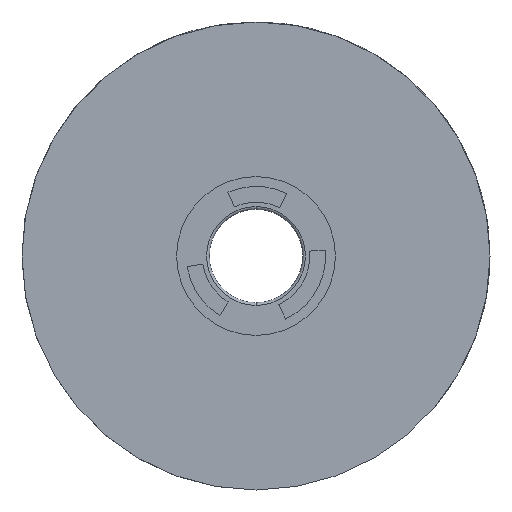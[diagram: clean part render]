
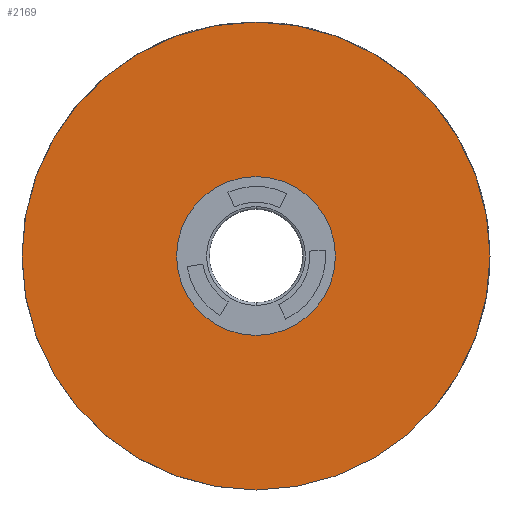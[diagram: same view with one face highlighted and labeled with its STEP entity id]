
A CAD part, front view. The second image highlights one B-rep face of the part: STEP entity #2169.
In plain terms, the highlighted planar face has unit normal (0, -1, 0).
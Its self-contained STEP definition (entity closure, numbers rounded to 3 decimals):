
#48 = DIRECTION ( 'NONE',  ( 0., 0., -1. ) ) ;
#63 = DIRECTION ( 'NONE',  ( 0., -1., 0. ) ) ;
#352 = CARTESIAN_POINT ( 'NONE',  ( 0., -9.45, 42. ) ) ;
#358 = AXIS2_PLACEMENT_3D ( 'NONE', #1644, #464, #2385 ) ;
#407 = ORIENTED_EDGE ( 'NONE', *, *, #2436, .T. ) ;
#409 = CIRCLE ( 'NONE', #2336, 14.25 ) ;
#410 = ORIENTED_EDGE ( 'NONE', *, *, #2871, .F. ) ;
#464 = DIRECTION ( 'NONE',  ( 0., -1., 0. ) ) ;
#566 = VERTEX_POINT ( 'NONE', #2294 ) ;
#659 = CARTESIAN_POINT ( 'NONE',  ( 0., -9.45, 0. ) ) ;
#666 = VERTEX_POINT ( 'NONE', #2099 ) ;
#960 = CARTESIAN_POINT ( 'NONE',  ( 0., -9.45, -42. ) ) ;
#1152 = VERTEX_POINT ( 'NONE', #352 ) ;
#1221 = FACE_OUTER_BOUND ( 'NONE', #1863, .T. ) ;
#1335 = ORIENTED_EDGE ( 'NONE', *, *, #2528, .T. ) ;
#1475 = DIRECTION ( 'NONE',  ( 0., 0., -1. ) ) ;
#1492 = CARTESIAN_POINT ( 'NONE',  ( 0., -9.45, -8.375 ) ) ;
#1513 = AXIS2_PLACEMENT_3D ( 'NONE', #1640, #2568, #1859 ) ;
#1527 = CARTESIAN_POINT ( 'NONE',  ( 0., -9.45, 0. ) ) ;
#1640 = CARTESIAN_POINT ( 'NONE',  ( 0., -9.45, 0. ) ) ;
#1644 = CARTESIAN_POINT ( 'NONE',  ( 0., -9.45, 0. ) ) ;
#1733 = CIRCLE ( 'NONE', #358, 42. ) ;
#1859 = DIRECTION ( 'NONE',  ( 0., 0., -1. ) ) ;
#1863 = EDGE_LOOP ( 'NONE', ( #1335, #407 ) ) ;
#1878 = DIRECTION ( 'NONE',  ( 0., -1., 0. ) ) ;
#1883 = AXIS2_PLACEMENT_3D ( 'NONE', #1527, #2281, #48 ) ;
#1932 = CIRCLE ( 'NONE', #1883, 42. ) ;
#2071 = CIRCLE ( 'NONE', #1513, 14.25 ) ;
#2099 = CARTESIAN_POINT ( 'NONE',  ( 0., -9.45, 14.25 ) ) ;
#2117 = DIRECTION ( 'NONE',  ( 0., 0., -1. ) ) ;
#2169 = ADVANCED_FACE ( 'NONE', ( #2423, #1221 ), #2926, .T. ) ;
#2281 = DIRECTION ( 'NONE',  ( 0., -1., 0. ) ) ;
#2294 = CARTESIAN_POINT ( 'NONE',  ( 0., -9.45, -14.25 ) ) ;
#2336 = AXIS2_PLACEMENT_3D ( 'NONE', #659, #1878, #2117 ) ;
#2385 = DIRECTION ( 'NONE',  ( 0., 0., -1. ) ) ;
#2423 = FACE_BOUND ( 'NONE', #3050, .T. ) ;
#2436 = EDGE_CURVE ( 'NONE', #1152, #2939, #1932, .T. ) ;
#2524 = EDGE_CURVE ( 'NONE', #666, #566, #409, .T. ) ;
#2528 = EDGE_CURVE ( 'NONE', #2939, #1152, #1733, .T. ) ;
#2568 = DIRECTION ( 'NONE',  ( 0., -1., 0. ) ) ;
#2871 = EDGE_CURVE ( 'NONE', #566, #666, #2071, .T. ) ;
#2926 = PLANE ( 'NONE',  #2947 ) ;
#2939 = VERTEX_POINT ( 'NONE', #960 ) ;
#2947 = AXIS2_PLACEMENT_3D ( 'NONE', #1492, #63, #1475 ) ;
#3045 = ORIENTED_EDGE ( 'NONE', *, *, #2524, .F. ) ;
#3050 = EDGE_LOOP ( 'NONE', ( #410, #3045 ) ) ;
